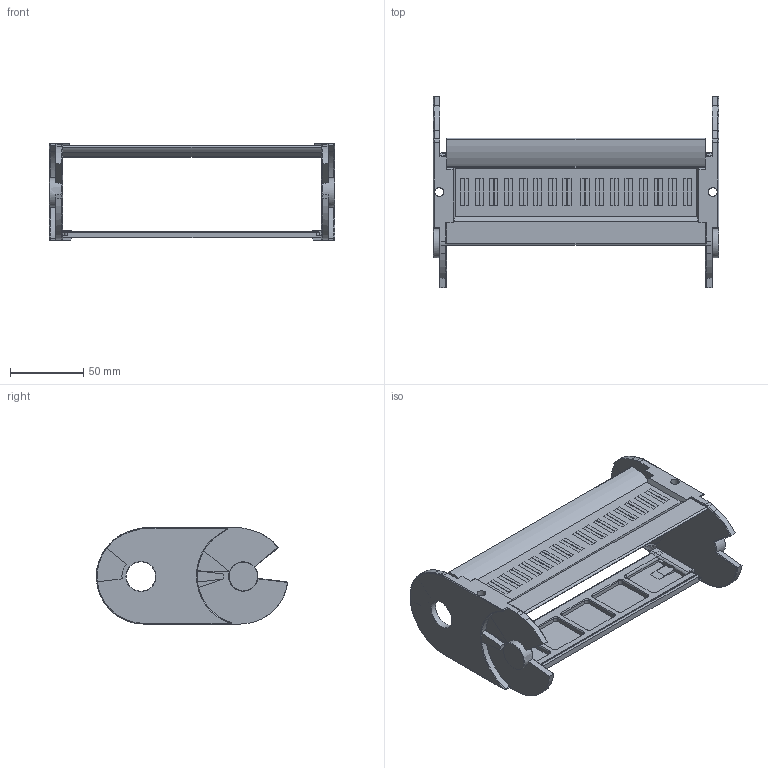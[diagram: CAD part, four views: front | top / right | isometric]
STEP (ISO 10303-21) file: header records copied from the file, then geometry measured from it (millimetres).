
FILE_DESCRIPTION((''),'2;1');
FILE_NAME('C:\Uebbing\PARAMETERKETTEN\KOLIBRI\Kol_65_195_1\Kol_65_195_1.stp','2011-11-02T15:17:56',('Uebbing'),(''),'Autodesk Inventor 10','Autodesk Inventor 10','');
FILE_SCHEMA(('AUTOMOTIVE_DESIGN { 1 0 10303 214 1 1 1 1 }'));
Length unit declared in the file: millimetre
Products named in the file (3): Kol_65_195_1; Kol_65_195_5 Lasche; Kol_65_195_1 Klappsteg
Assembly tree (2 placements, depth 2):
  Kol_65_195_1
    Kol_65_195_5 Lasche
    Kol_65_195_1 Klappsteg
Bounding box: 195 x 130.76 x 65.7 mm (x, y, z)
Volume: 121660.6 mm3; surface area: 87215.5 mm2
Topology: 2 solids, 2 shells, 669 faces, 1837 edges, 1180 vertices
Faces by surface type: plane 281, bspline 253, cylinder 107, torus 22, cone 4, sphere 2
Full cylindrical faces by diameter (mm): 2.514 x1, 4 x3, 4.414 x1, 6 x1, 20 x2
Entity records: 22601 total; most frequent: CARTESIAN_POINT 6232, ORIENTED_EDGE 3604, DIRECTION 3003, EDGE_CURVE 1802, VECTOR 1343, LINE 1343, VERTEX_POINT 1169, AXIS2_PLACEMENT_3D 830
